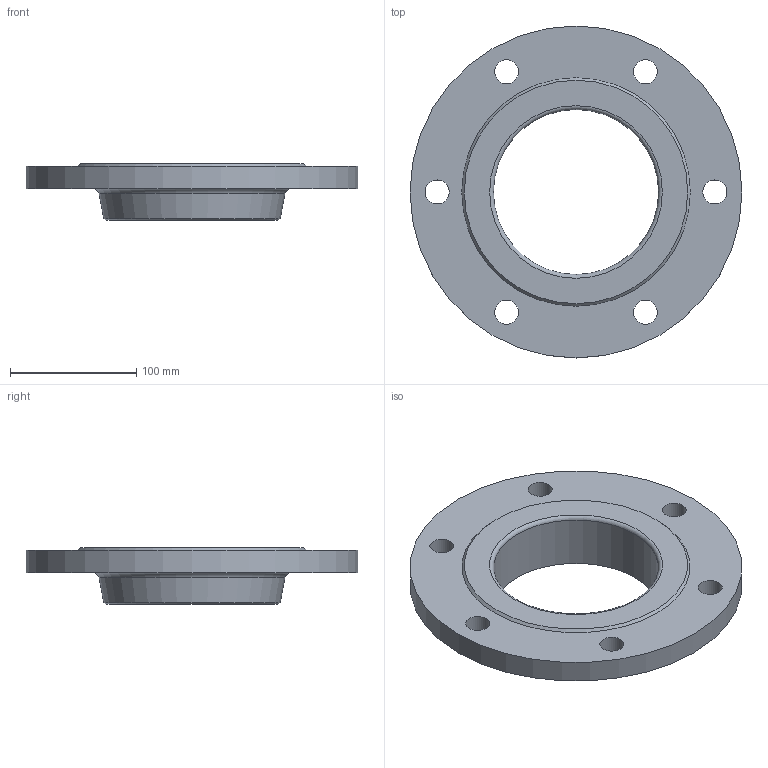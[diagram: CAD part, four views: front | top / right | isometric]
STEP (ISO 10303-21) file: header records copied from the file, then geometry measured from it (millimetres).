
FILE_DESCRIPTION(/* description */ (''),/* implementation_level */ '2;1');
FILE_NAME(/* name */ 'C:\Users\D\Documents\Inventor\HP\JIS\フランジ\水道用フランジF12\RF\ffws_rf_125.stp',/* time_stamp */ '2024-08-28T10:15:31+09:00',/* author */ ('D'),/* organization */ (''),/* preprocessor_version */ 'ST-DEVELOPER v18',/* originating_system */ 'Autodesk Inventor 2020',/* authorisation */ '');
FILE_SCHEMA (('AUTOMOTIVE_DESIGN { 1 0 10303 214 3 1 1 }'));
Length unit declared in the file: millimetre
Products named in the file (1): ffws_rf_80
Bounding box: 263 x 263 x 45 mm (x, y, z)
Volume: 800910.1 mm3; surface area: 126569.9 mm2
Topology: 1 solids, 1 shells, 17 faces, 50 edges, 37 vertices
Faces by surface type: cylinder 8, plane 4, cone 3, torus 2
Full cylindrical faces by diameter (mm): 19 x6, 130.8 x1, 263 x1
Entity records: 680 total; most frequent: DIRECTION 125, CARTESIAN_POINT 105, ORIENTED_EDGE 100, AXIS2_PLACEMENT_3D 57, EDGE_CURVE 50, CIRCLE 39, VERTEX_POINT 37, EDGE_LOOP 33
